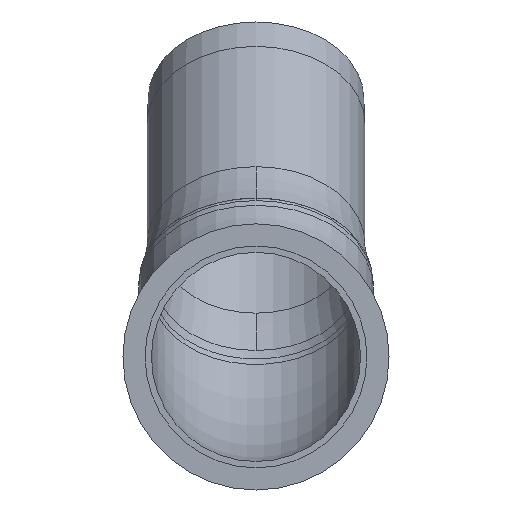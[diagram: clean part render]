
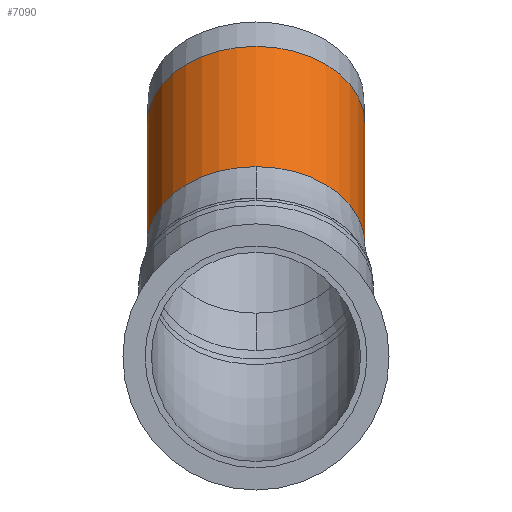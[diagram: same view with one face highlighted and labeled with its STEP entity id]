
A CAD part, left-side view. The second image highlights one B-rep face of the part: STEP entity #7090.
In plain terms, the highlighted cylindrical face has radius 30.15 mm (diameter 60.3 mm), a partial arc.
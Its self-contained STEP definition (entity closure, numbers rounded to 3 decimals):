
#1040=CARTESIAN_POINT('',(201.751,79.245,
64.789));
#1050=VERTEX_POINT('',#1040);
#1080=CARTESIAN_POINT('',(201.751,49.095,64.789));
#1090=DIRECTION('',(0.707,0.,0.707));
#1100=DIRECTION('',(0.,-1.,0.));
#1110=AXIS2_PLACEMENT_3D('',#1080,#1090,#1100);
#1120=CIRCLE('',#1110,30.15);
#1130=CARTESIAN_POINT('',(201.751,18.945,64.789));
#1140=VERTEX_POINT('',#1130);
#6730=CARTESIAN_POINT('',(158.629,49.095,21.666));
#6740=DIRECTION('',(0.707,0.,0.707));
#6750=DIRECTION('',(0.,-1.,0.));
#6760=AXIS2_PLACEMENT_3D('',#6730,#6740,#6750);
#6770=CYLINDRICAL_SURFACE('',#6760,30.15);
#6780=CARTESIAN_POINT('',(158.629,18.945,21.666));
#6790=DIRECTION('',(0.707,0.,0.707));
#6800=VECTOR('',#6790,1.);
#6810=LINE('',#6780,#6800);
#6820=CARTESIAN_POINT('',(168.4,18.945,31.437));
#6830=VERTEX_POINT('',#6820);
#6840=EDGE_CURVE('',#6830,#1140,#6810,.T.);
#6850=ORIENTED_EDGE('',*,*,#6840,.T.);
#6860=CARTESIAN_POINT('',(168.4,49.095,31.437));
#6870=DIRECTION('',(-0.707,-0.,-0.707));
#6880=DIRECTION('',(-0.707,0.,0.707));
#6890=AXIS2_PLACEMENT_3D('',#6860,#6870,#6880);
#6900=CIRCLE('',#6890,30.15);
#6910=CARTESIAN_POINT('',(147.081,49.095,52.757));
#6920=VERTEX_POINT('',#6910);
#6930=EDGE_CURVE('',#6830,#6920,#6900,.T.);
#6940=ORIENTED_EDGE('',*,*,#6930,.F.);
#6950=CARTESIAN_POINT('',(168.4,79.245,31.437));
#6960=VERTEX_POINT('',#6950);
#6970=EDGE_CURVE('',#6920,#6960,#6900,.T.);
#6980=ORIENTED_EDGE('',*,*,#6970,.F.);
#6990=CARTESIAN_POINT('',(158.629,79.245,21.666));
#7000=DIRECTION('',(0.707,0.,0.707));
#7010=VECTOR('',#7000,1.);
#7020=LINE('',#6990,#7010);
#7030=EDGE_CURVE('',#6960,#1050,#7020,.T.);
#7040=ORIENTED_EDGE('',*,*,#7030,.F.);
#7050=EDGE_CURVE('',#1050,#1140,#1120,.T.);
#7060=ORIENTED_EDGE('',*,*,#7050,.F.);
#7070=EDGE_LOOP('',(#7060,#7040,#6980,#6940,#6850));
#7080=FACE_OUTER_BOUND('',#7070,.T.);
#7090=ADVANCED_FACE('',(#7080),#6770,.T.);
